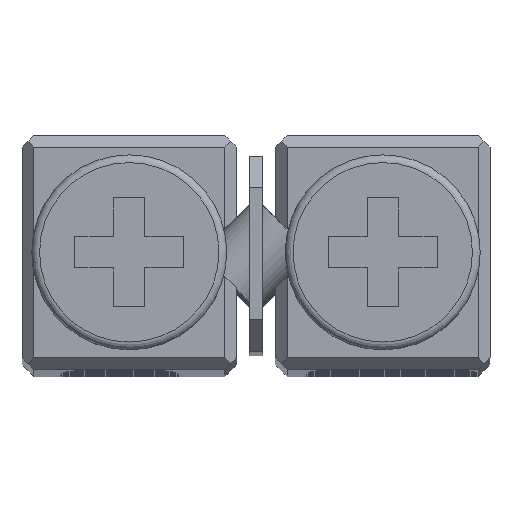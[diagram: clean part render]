
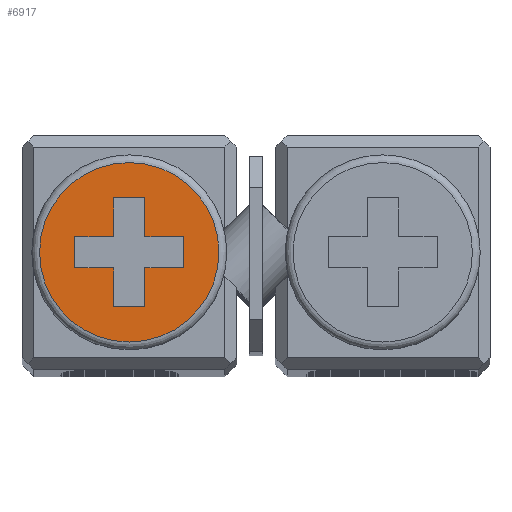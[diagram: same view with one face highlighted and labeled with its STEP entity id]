
A CAD part, top view. The second image highlights one B-rep face of the part: STEP entity #6917.
In plain terms, the highlighted planar face has unit normal (0, 0, 1).
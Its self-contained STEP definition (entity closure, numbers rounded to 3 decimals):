
#322=LINE('',#10044,#935);
#323=LINE('',#10047,#936);
#324=LINE('',#10049,#937);
#325=LINE('',#10051,#938);
#326=LINE('',#10053,#939);
#327=LINE('',#10055,#940);
#328=LINE('',#10057,#941);
#329=LINE('',#10059,#942);
#330=LINE('',#10061,#943);
#331=LINE('',#10063,#944);
#332=LINE('',#10065,#945);
#333=LINE('',#10067,#946);
#935=VECTOR('',#8146,1000.);
#936=VECTOR('',#8147,1000.);
#937=VECTOR('',#8148,1000.);
#938=VECTOR('',#8149,1000.);
#939=VECTOR('',#8150,1000.);
#940=VECTOR('',#8151,1000.);
#941=VECTOR('',#8152,1000.);
#942=VECTOR('',#8153,1000.);
#943=VECTOR('',#8154,1000.);
#944=VECTOR('',#8155,1000.);
#945=VECTOR('',#8156,1000.);
#946=VECTOR('',#8157,1000.);
#1700=ORIENTED_EDGE('',*,*,#3418,.F.);
#1701=ORIENTED_EDGE('',*,*,#3419,.F.);
#1702=ORIENTED_EDGE('',*,*,#3420,.F.);
#1703=ORIENTED_EDGE('',*,*,#3421,.F.);
#1704=ORIENTED_EDGE('',*,*,#3422,.F.);
#1705=ORIENTED_EDGE('',*,*,#3423,.F.);
#1706=ORIENTED_EDGE('',*,*,#3424,.F.);
#1707=ORIENTED_EDGE('',*,*,#3425,.F.);
#1708=ORIENTED_EDGE('',*,*,#3426,.F.);
#1709=ORIENTED_EDGE('',*,*,#3427,.F.);
#1710=ORIENTED_EDGE('',*,*,#3428,.F.);
#1711=ORIENTED_EDGE('',*,*,#3429,.F.);
#1712=ORIENTED_EDGE('',*,*,#3430,.T.);
#3418=EDGE_CURVE('',#4297,#4298,#322,.T.);
#3419=EDGE_CURVE('',#4299,#4297,#323,.T.);
#3420=EDGE_CURVE('',#4300,#4299,#324,.T.);
#3421=EDGE_CURVE('',#4301,#4300,#325,.T.);
#3422=EDGE_CURVE('',#4302,#4301,#326,.T.);
#3423=EDGE_CURVE('',#4303,#4302,#327,.T.);
#3424=EDGE_CURVE('',#4304,#4303,#328,.T.);
#3425=EDGE_CURVE('',#4305,#4304,#329,.T.);
#3426=EDGE_CURVE('',#4306,#4305,#330,.T.);
#3427=EDGE_CURVE('',#4307,#4306,#331,.T.);
#3428=EDGE_CURVE('',#4308,#4307,#332,.T.);
#3429=EDGE_CURVE('',#4298,#4308,#333,.T.);
#3430=EDGE_CURVE('',#4309,#4309,#4864,.T.);
#4297=VERTEX_POINT('',#10045);
#4298=VERTEX_POINT('',#10046);
#4299=VERTEX_POINT('',#10048);
#4300=VERTEX_POINT('',#10050);
#4301=VERTEX_POINT('',#10052);
#4302=VERTEX_POINT('',#10054);
#4303=VERTEX_POINT('',#10056);
#4304=VERTEX_POINT('',#10058);
#4305=VERTEX_POINT('',#10060);
#4306=VERTEX_POINT('',#10062);
#4307=VERTEX_POINT('',#10064);
#4308=VERTEX_POINT('',#10066);
#4309=VERTEX_POINT('',#10069);
#4864=CIRCLE('',#7307,2.3);
#5144=EDGE_LOOP('',(#1700,#1701,#1702,#1703,#1704,#1705,#1706,#1707,#1708,
#1709,#1710,#1711));
#5145=EDGE_LOOP('',(#1712));
#5613=FACE_BOUND('',#5144,.T.);
#5614=FACE_BOUND('',#5145,.T.);
#6023=PLANE('',#7306);
#6917=ADVANCED_FACE('',(#5613,#5614),#6023,.T.);
#7306=AXIS2_PLACEMENT_3D('',#10043,#8144,#8145);
#7307=AXIS2_PLACEMENT_3D('',#10068,#8158,#8159);
#8144=DIRECTION('',(0.,0.,1.));
#8145=DIRECTION('',(1.,0.,0.));
#8146=DIRECTION('',(-1.,0.,0.));
#8147=DIRECTION('',(0.,-1.,0.));
#8148=DIRECTION('',(-1.,0.,0.));
#8149=DIRECTION('',(0.,1.,0.));
#8150=DIRECTION('',(-1.,0.,0.));
#8151=DIRECTION('',(0.,1.,0.));
#8152=DIRECTION('',(1.,0.,0.));
#8153=DIRECTION('',(0.,1.,0.));
#8154=DIRECTION('',(1.,0.,0.));
#8155=DIRECTION('',(0.,-1.,0.));
#8156=DIRECTION('',(1.,0.,0.));
#8157=DIRECTION('',(0.,-1.,0.));
#8158=DIRECTION('',(0.,0.,1.));
#8159=DIRECTION('',(1.,0.,0.));
#10043=CARTESIAN_POINT('',(0.,0.,1.4));
#10044=CARTESIAN_POINT('',(-0.4,0.4,1.4));
#10045=CARTESIAN_POINT('',(-0.4,0.4,1.4));
#10046=CARTESIAN_POINT('',(-1.4,0.4,1.4));
#10047=CARTESIAN_POINT('',(-0.4,1.4,1.4));
#10048=CARTESIAN_POINT('',(-0.4,1.4,1.4));
#10049=CARTESIAN_POINT('',(0.4,1.4,1.4));
#10050=CARTESIAN_POINT('',(0.4,1.4,1.4));
#10051=CARTESIAN_POINT('',(0.4,0.4,1.4));
#10052=CARTESIAN_POINT('',(0.4,0.4,1.4));
#10053=CARTESIAN_POINT('',(1.4,0.4,1.4));
#10054=CARTESIAN_POINT('',(1.4,0.4,1.4));
#10055=CARTESIAN_POINT('',(1.4,-0.4,1.4));
#10056=CARTESIAN_POINT('',(1.4,-0.4,1.4));
#10057=CARTESIAN_POINT('',(0.4,-0.4,1.4));
#10058=CARTESIAN_POINT('',(0.4,-0.4,1.4));
#10059=CARTESIAN_POINT('',(0.4,-1.4,1.4));
#10060=CARTESIAN_POINT('',(0.4,-1.4,1.4));
#10061=CARTESIAN_POINT('',(-0.4,-1.4,1.4));
#10062=CARTESIAN_POINT('',(-0.4,-1.4,1.4));
#10063=CARTESIAN_POINT('',(-0.4,-0.4,1.4));
#10064=CARTESIAN_POINT('',(-0.4,-0.4,1.4));
#10065=CARTESIAN_POINT('',(-1.4,-0.4,1.4));
#10066=CARTESIAN_POINT('',(-1.4,-0.4,1.4));
#10067=CARTESIAN_POINT('',(-1.4,0.4,1.4));
#10068=CARTESIAN_POINT('',(0.,0.,1.4));
#10069=CARTESIAN_POINT('',(2.3,0.,1.4));
